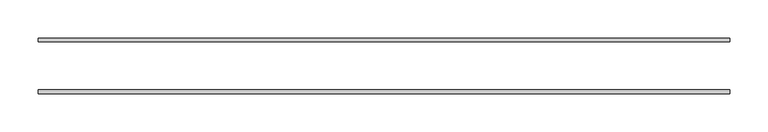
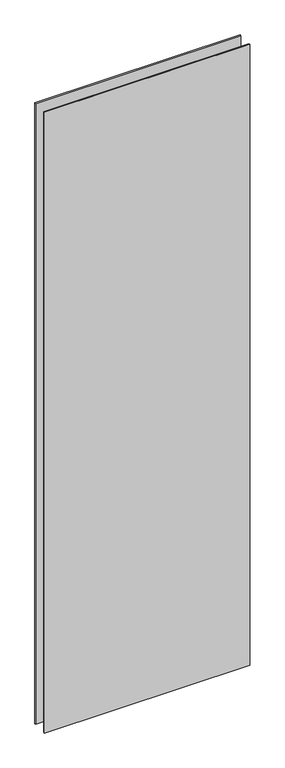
"""IFC4 building model written with IfcOpenShell, lengths in millimetres: plate geometry, VERTI ELEMENT - prosklená výplň : Prosklená výplň."""

from ifc_helpers import new_model, si_unit, origin, origin_with_axes, place, context, project, spatial, polyline, outline, extrude, source, transform, mapped, element, save


def plate_acc71f32(model_context):
    return source(origin(), model_context, "Body", "SweptSolid", [
        extrude(outline(polyline([(-455.0, -36.5), (-455.0, -31.5), (455.0, -31.5), (455.0, -36.5), (-455.0, -36.5)])), origin_with_axes(), (0.0, 0.0, 1.0), 2910.0),
        extrude(outline(polyline([(455.0, 36.5), (455.0, 31.5), (-455.0, 31.5), (-455.0, 36.5), (455.0, 36.5)])), origin_with_axes(), (0.0, 0.0, 1.0), 2910.0),
    ])


if __name__ == "__main__":
    model = new_model("IFC4")
    model_context = context("Model", 3, world=origin())
    ifc_project = project(units=[si_unit("LENGTHUNIT", "METRE", prefix="MILLI")], contexts=[model_context])
    site = spatial("IfcSite", under=ifc_project)
    building = spatial("IfcBuilding", under=site)
    placement = place(None, origin())
    plate_shape = plate_acc71f32(model_context)
    element("IfcPlate", 1, ObjectType="VERTI ELEMENT - prosklená výplň : Prosklená výplň", at=placement, inside=building, context=model_context, shape_type="MappedRepresentation", body=[
        mapped(plate_shape, transform((0.0, 0.0, 0.0), x_axis=(1.0, 0.0, 0.0), y_axis=(0.0, 1.0, 0.0), z_axis=(0.0, 0.0, 1.0))),
    ])
    save(model, "model.ifc")
